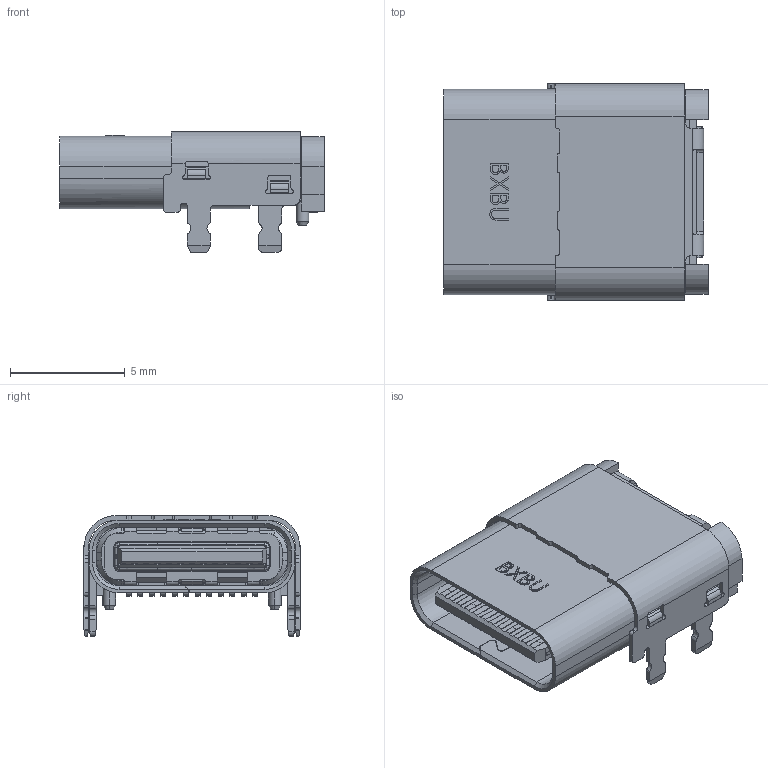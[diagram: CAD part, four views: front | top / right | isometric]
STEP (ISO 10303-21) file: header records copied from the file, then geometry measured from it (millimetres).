
FILE_DESCRIPTION (( 'STEP AP203' ), '1' );
FILE_NAME ('U5145-24PN11.5L.STEP', '2026-09-21T06:45:14', ( '' ), ( '' ), 'SwSTEP 2.0', 'SolidWorks 2024', '' );
FILE_SCHEMA (( 'CONFIG_CONTROL_DESIGN' ));
Length unit declared in the file: millimetre
Products named in the file (1): U5145-24PN11.5L
Bounding box: 11.5 x 9.44 x 5.26 mm (x, y, z)
Volume: 231 mm3; surface area: 894 mm2
Topology: 1 solids, 1 shells, 1432 faces, 4061 edges, 2623 vertices
Faces by surface type: plane 1068, cylinder 303, bspline 29, cone 19, torus 13
Entity records: 47713 total; most frequent: CARTESIAN_POINT 10642, ORIENTED_EDGE 8122, DIRECTION 7227, EDGE_CURVE 4061, VECTOR 3199, LINE 3199, VERTEX_POINT 2623, AXIS2_PLACEMENT_3D 2014
